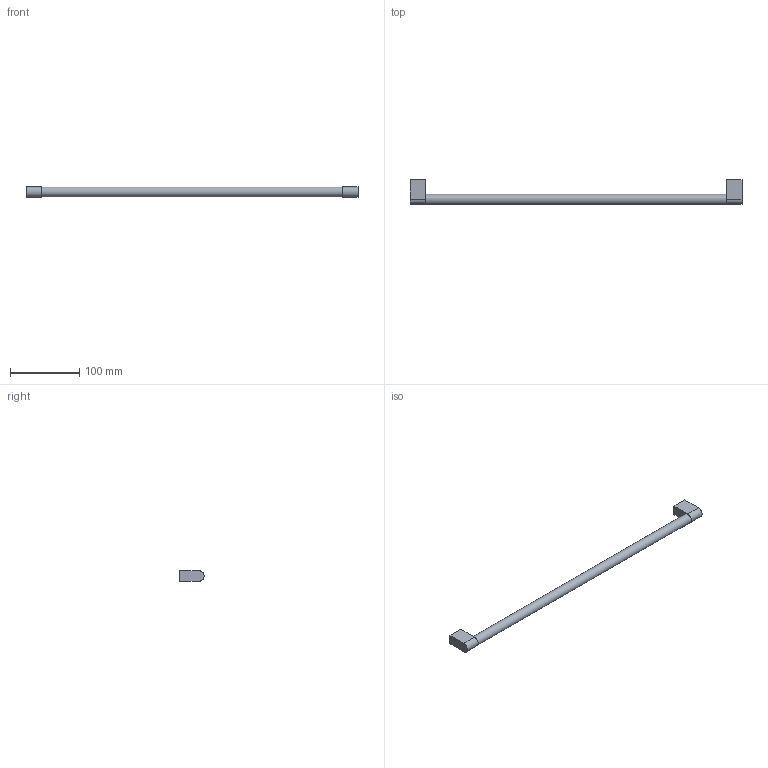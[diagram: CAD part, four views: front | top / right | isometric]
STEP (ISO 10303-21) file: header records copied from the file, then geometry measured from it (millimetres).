
FILE_DESCRIPTION( ( 'STEP AP214' ), '1' );
FILE_NAME( 'C:/Shahbaz/Shahbaz D&D/Task/Working-ON/Varna/QC/9332355.stp', '2023-08-29T07:00:25', ( '' ), ( '' ), ' ', 'PARTsolutions', ' ' );
FILE_SCHEMA( ( 'AUTOMOTIVE_DESIGN { 1 0 10303 214 1 1 1 1 }' ) );
Length unit declared in the file: millimetre
Products named in the file (1): _9332355
Bounding box: 478 x 35.36 x 14.64 mm (x, y, z)
Volume: 89591.5 mm3; surface area: 25730.8 mm2
Topology: 1 solids, 1 shells, 17 faces, 33 edges, 22 vertices
Faces by surface type: plane 12, cylinder 5
Full cylindrical faces by diameter (mm): 6.2 x2, 14.2 x1
Entity records: 574 total; most frequent: DIRECTION 76, CARTESIAN_POINT 70, ORIENTED_EDGE 60, EDGE_CURVE 30, AXIS2_PLACEMENT_3D 28, EDGE_LOOP 24, VERTEX_POINT 22, FACE_OUTER_BOUND 20
